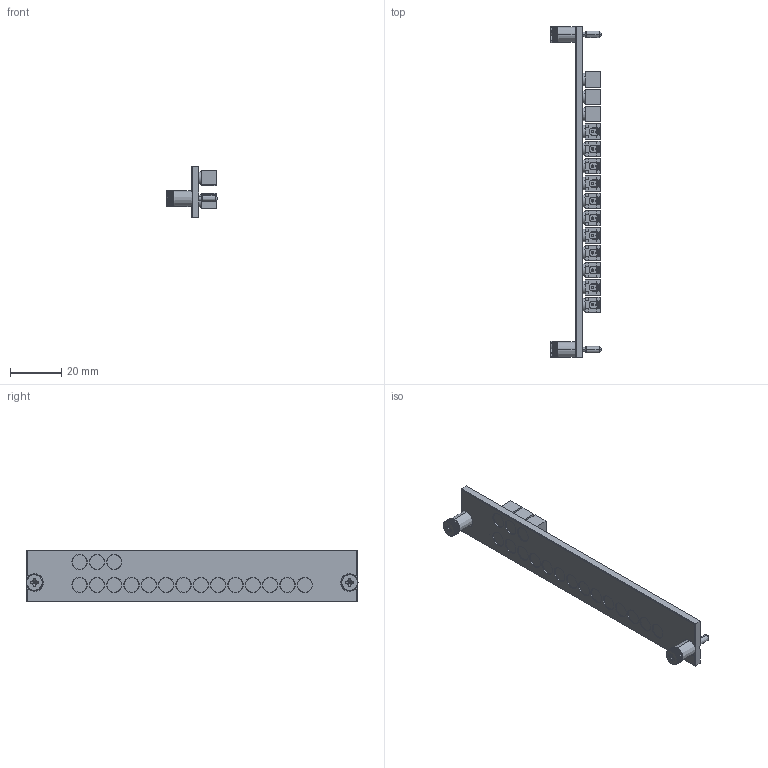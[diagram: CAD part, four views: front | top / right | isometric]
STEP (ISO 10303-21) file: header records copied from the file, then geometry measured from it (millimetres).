
FILE_DESCRIPTION((''),'2;1');
FILE_NAME('CU_PXIE-2540','2013-01-08T',('jjorden'),(''),'PRO/ENGINEER BY PARAMETRIC TECHNOLOGY CORPORATION, 2011490','PRO/ENGINEER BY PARAMETRIC TECHNOLOGY CORPORATION, 2011490','');
FILE_SCHEMA(('CONFIG_CONTROL_DESIGN'));
Products named in the file (1): CU_PXIE-2540
Bounding box: 20 x 129.02 x 20.02 mm (x, y, z)
Volume: 10561.3 mm3; surface area: 18322.1 mm2
Topology: 19 solids, 19 shells, 2693 faces, 7388 edges, 4862 vertices
Faces by surface type: plane 1340, cylinder 878, cone 403, bspline 36, extrusion 32, torus 4
Entity records: 94497 total; most frequent: CARTESIAN_POINT 26410, ORIENTED_EDGE 14764, DIRECTION 13732, EDGE_CURVE 7382, AXIS2_PLACEMENT_3D 4980, VERTEX_POINT 4861, VECTOR 3772, LINE 3740
